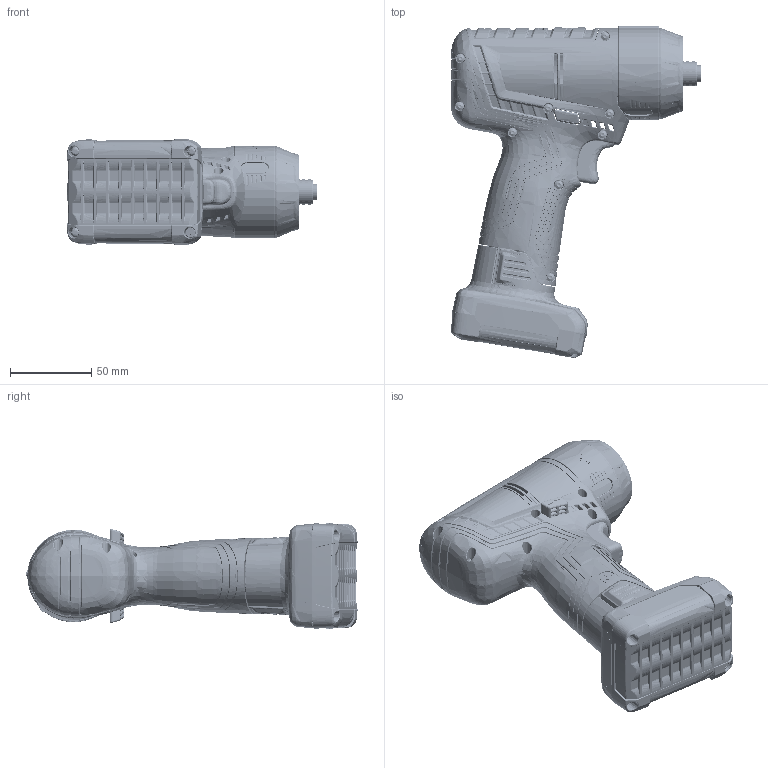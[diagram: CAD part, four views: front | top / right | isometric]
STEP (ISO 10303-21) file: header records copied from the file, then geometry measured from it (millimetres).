
FILE_DESCRIPTION((''),'2;1');
FILE_NAME('3602D96400_ASM','2020-10-22T07:52:36',('LEM2MT'),(''),'CREO PARAMETRIC BY PTC INC, 2018190','CREO PARAMETRIC BY PTC INC, 2018190','');
FILE_SCHEMA(('AUTOMOTIVE_DESIGN { 1 0 10303 214 1 1 1 1 }'));
Products named in the file (58): 3602D96400_SKEL; 3605105053_SKEL0001; 3605105058-100; 3605105058-200; 3604460193; 3604460194; 3605105053_ASM; 3605105055; 3605105055_ASM; 3604460195; 3605105057; 3607030495_SKEL1; 3607030495_100_ASM; 3607030495_200_SKEL; 3605106122; 3605106122_ASM; 3600905085-01; 3600905085-02; 3600905085-03; 3600905085-04; 3600905085-05; 3600905085_ASM; 3606337257_ASM; 3607030495_400_SKEL0001; 3601038054; 3600100104; 3607030495_300_ASM; 3600134019; 3600106034; 3607030495_400_ASM; 3607030495_200_ASM; 3607030495_SWF_SKEL; 3606337253; 2609110983; 2609110981; 2609110982; 2609110984; 2609110985; 3600400038; 3607030495_SWF_ASM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
Assembly tree (80 placements, depth 6):
  3602D96400_ASM
    3602D96400_SKEL
    3605105053_ASM
      3605105053_SKEL0001
      3605105058-100
      3605105058-200
      3604460193
      3604460194
    3605105055_ASM
      3605105055
    3604460195
    3605105057
    3607030495_ASM
      3607030495_SKEL1
      3607030495_100_ASM
      3607030495_200_ASM
        3607030495_200_SKEL
        3605106122_ASM
          3605106122
        3600905085_ASM
          3600905085-01
          3600905085-02
          3600905085-03  x11
          3600905085-04  x2
          3600905085-05  x2
        3606337257_ASM
        3607030495_400_ASM
          3607030495_400_SKEL0001
          3607030495_300_ASM
            3601038054
            3600100104
          3600134019
          3600106034
      3607030495_SWF_ASM
        3607030495_SWF_SKEL
        3606337253
        2609110983
        2609110981
        2609110982
        2609110984
        2609110985
        3600400038
    3605105056_ASM
      3605105056
    3601106062
    3601099006  x3
    2609918183_10V8_BEU_ASM
    2607336779-DUMMY
    1600A023EF
    2607202377_ASM
      2607202377_SKEL0001
      2607202298_ASM  x2
        2607202298
        2607202298_010
      2607202275-RIB-MA
    2609110883  x9
    2609110835_IW
    2609110537_IW
Bounding box: 154.25 x 204.39 x 64.99 mm (x, y, z)
Volume: 227968.8 mm3; surface area: 259608.6 mm2
Topology: 56 solids, 63 shells, 16493 faces, 42525 edges, 26363 vertices
Faces by surface type: bspline 6838, plane 4732, cylinder 2770, cone 643, torus 597, sphere 492, extrusion 407, revolution 14
Entity records: 1239091 total; most frequent: CARTESIAN_POINT 759923, ORIENTED_EDGE 75294, PRESENTATION_STYLE_ASSIGNMENT 46898, DIRECTION 42566, STYLED_ITEM 39895, CURVE_STYLE 38027, EDGE_CURVE 37647, VERTEX_POINT 23268
